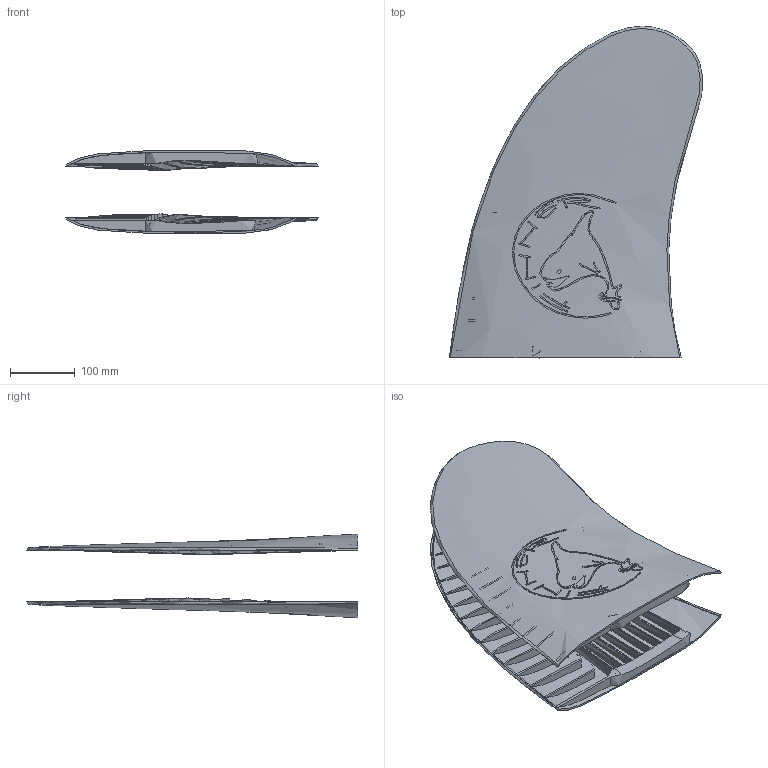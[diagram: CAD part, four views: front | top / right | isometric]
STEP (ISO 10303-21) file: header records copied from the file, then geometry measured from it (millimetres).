
FILE_DESCRIPTION(/* description */ (''),/* implementation_level */ '2;1');
FILE_NAME(/* name */ 'Suuruim20a.stp',/* time_stamp */ '2010-02-27T13:11:04+02:00',/* author */ (''),/* organization */ (''),/* preprocessor_version */ 'ST-DEVELOPER v11',/* originating_system */ 'SIEMENS PLM Software NX 7.0',/* authorisation */ '');
FILE_SCHEMA (('AUTOMOTIVE_DESIGN { 1 0 10303 214 1 1 1 1 }'));
Products named in the file (1): Mart1B26ht7g
Bounding box: 390.23 x 511.48 x 128.81 mm (x, y, z)
Volume: 1148630.7 mm3; surface area: 763829.9 mm2
Topology: 2 solids, 2 shells, 1146 faces, 3246 edges, 2157 vertices
Faces by surface type: extrusion 836, bspline 159, plane 151
Entity records: 99755 total; most frequent: CARTESIAN_POINT 74921, ORIENTED_EDGE 6462, EDGE_CURVE 3231, B_SPLINE_CURVE_WITH_KNOTS 3074, VERTEX_POINT 2154, DIRECTION 2131, VECTOR 1827, EDGE_LOOP 1219
